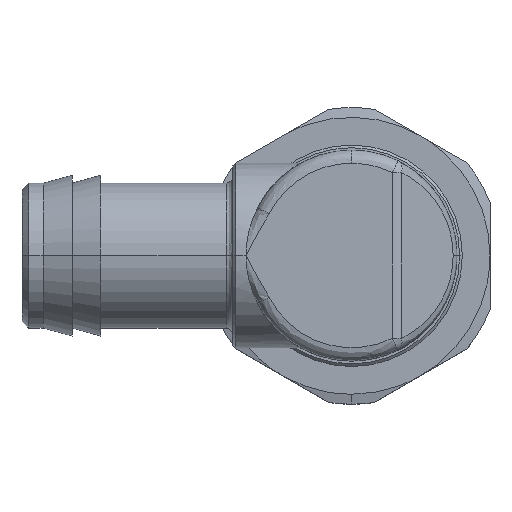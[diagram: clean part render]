
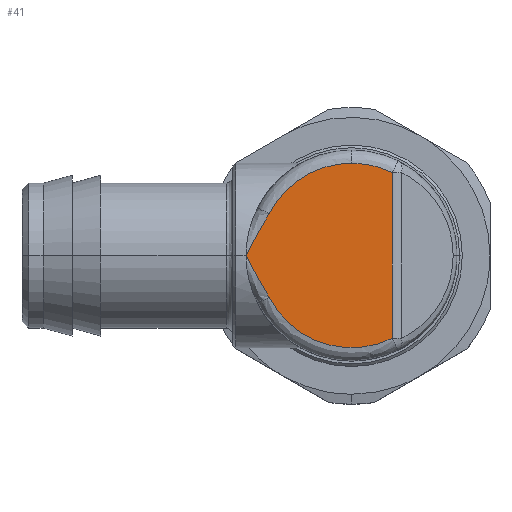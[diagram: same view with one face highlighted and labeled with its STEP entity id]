
A CAD part, top view. The second image highlights one B-rep face of the part: STEP entity #41.
In plain terms, the highlighted planar face has unit normal (0, 0, 1).
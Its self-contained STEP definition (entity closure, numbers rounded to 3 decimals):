
#41=ADVANCED_FACE('',(#145),#1529,.T.);
#145=FACE_OUTER_BOUND('',#249,.T.);
#249=EDGE_LOOP('',(#419,#420,#421,#422,#423,#424));
#419=ORIENTED_EDGE('',*,*,#875,.T.);
#420=ORIENTED_EDGE('',*,*,#831,.F.);
#421=ORIENTED_EDGE('',*,*,#904,.T.);
#422=ORIENTED_EDGE('',*,*,#876,.T.);
#423=ORIENTED_EDGE('',*,*,#877,.T.);
#424=ORIENTED_EDGE('',*,*,#898,.T.);
#831=EDGE_CURVE('',#1411,#1412,#1185,.T.);
#875=EDGE_CURVE('',#1444,#1412,#1110,.T.);
#876=EDGE_CURVE('',#1445,#1437,#1111,.T.);
#877=EDGE_CURVE('',#1437,#1446,#1112,.T.);
#898=EDGE_CURVE('',#1446,#1444,#1217,.T.);
#904=EDGE_CURVE('',#1411,#1445,#1223,.T.);
#1110=B_SPLINE_CURVE_WITH_KNOTS('',1,(#3274,#3275),.UNSPECIFIED.,.F.,.F.,
(2,2),(0.,12.566),.UNSPECIFIED.);
#1111=B_SPLINE_CURVE_WITH_KNOTS('',3,(#3276,#3277,#3278,#3279,#3280,#3281,
#3282,#3283),.UNSPECIFIED.,.F.,.F.,(4,2,2,4),(0.,0.904,1.807,
3.614),.UNSPECIFIED.);
#1112=B_SPLINE_CURVE_WITH_KNOTS('',3,(#3284,#3285,#3286,#3287,#3288,#3289,
#3290,#3291),.UNSPECIFIED.,.F.,.F.,(4,2,2,4),(0.,1.807,2.711,
3.614),.UNSPECIFIED.);
#1185=TRIMMED_CURVE($,#1294,(#3082),(#3083),.T.,.CARTESIAN.);
#1217=TRIMMED_CURVE($,#1326,(#3372),(#3373),.T.,.CARTESIAN.);
#1223=TRIMMED_CURVE($,#1332,(#3390),(#3391),.T.,.CARTESIAN.);
#1294=CIRCLE('',#1757,7.);
#1326=CIRCLE('',#1789,7.);
#1332=CIRCLE('',#1795,7.);
#1411=VERTEX_POINT('',#2982);
#1412=VERTEX_POINT('',#2983);
#1437=VERTEX_POINT('',#3008);
#1444=VERTEX_POINT('',#3015);
#1445=VERTEX_POINT('',#3016);
#1446=VERTEX_POINT('',#3017);
#1529=PLANE('',#1729);
#1729=AXIS2_PLACEMENT_3D('',#2451,#1903,$);
#1757=AXIS2_PLACEMENT_3D($,#3081,#1942,#1943);
#1789=AXIS2_PLACEMENT_3D($,#3371,#2006,#2007);
#1795=AXIS2_PLACEMENT_3D($,#3389,#2018,#2019);
#1903=DIRECTION('',(0.,0.,1.));
#1942=DIRECTION('',(0.,0.,-1.));
#1943=DIRECTION('',(0.,1.,0.));
#2006=DIRECTION('',(0.,0.,1.));
#2007=DIRECTION('',(-0.893,-0.451,0.));
#2018=DIRECTION('',(0.,0.,1.));
#2019=DIRECTION('',(0.,1.,0.));
#2451=CARTESIAN_POINT('',(127190.998,-54688.766,7.));
#2982=CARTESIAN_POINT('',(127186.804,-54670.797,7.));
#2983=CARTESIAN_POINT('',(127189.89,-54671.514,7.));
#3008=CARTESIAN_POINT('',(127178.804,-54677.797,7.));
#3015=CARTESIAN_POINT('',(127189.89,-54684.08,7.));
#3016=CARTESIAN_POINT('',(127180.555,-54674.642,7.));
#3017=CARTESIAN_POINT('',(127180.555,-54680.952,7.));
#3081=CARTESIAN_POINT('',(127186.804,-54677.797,7.));
#3082=CARTESIAN_POINT('',(127186.804,-54670.797,7.));
#3083=CARTESIAN_POINT('',(127189.89,-54671.514,7.));
#3274=CARTESIAN_POINT('',(127189.89,-54684.08,7.));
#3275=CARTESIAN_POINT('',(127189.89,-54671.514,7.));
#3276=CARTESIAN_POINT('',(127180.555,-54674.642,7.));
#3277=CARTESIAN_POINT('',(127180.419,-54674.911,7.));
#3278=CARTESIAN_POINT('',(127180.267,-54675.171,7.));
#3279=CARTESIAN_POINT('',(127179.956,-54675.686,7.));
#3280=CARTESIAN_POINT('',(127179.796,-54675.941,7.));
#3281=CARTESIAN_POINT('',(127179.328,-54676.713,7.));
#3282=CARTESIAN_POINT('',(127179.032,-54677.24,7.));
#3283=CARTESIAN_POINT('',(127178.804,-54677.797,7.));
#3284=CARTESIAN_POINT('',(127178.804,-54677.797,7.));
#3285=CARTESIAN_POINT('',(127179.032,-54678.354,7.));
#3286=CARTESIAN_POINT('',(127179.327,-54678.88,7.));
#3287=CARTESIAN_POINT('',(127179.796,-54679.652,7.));
#3288=CARTESIAN_POINT('',(127179.956,-54679.907,7.));
#3289=CARTESIAN_POINT('',(127180.267,-54680.423,7.));
#3290=CARTESIAN_POINT('',(127180.419,-54680.682,7.));
#3291=CARTESIAN_POINT('',(127180.555,-54680.952,7.));
#3371=CARTESIAN_POINT('',(127186.804,-54677.797,7.));
#3372=CARTESIAN_POINT('',(127180.555,-54680.952,7.));
#3373=CARTESIAN_POINT('',(127189.89,-54684.08,7.));
#3389=CARTESIAN_POINT('',(127186.804,-54677.797,7.));
#3390=CARTESIAN_POINT('',(127186.804,-54670.797,7.));
#3391=CARTESIAN_POINT('',(127180.555,-54674.642,7.));
